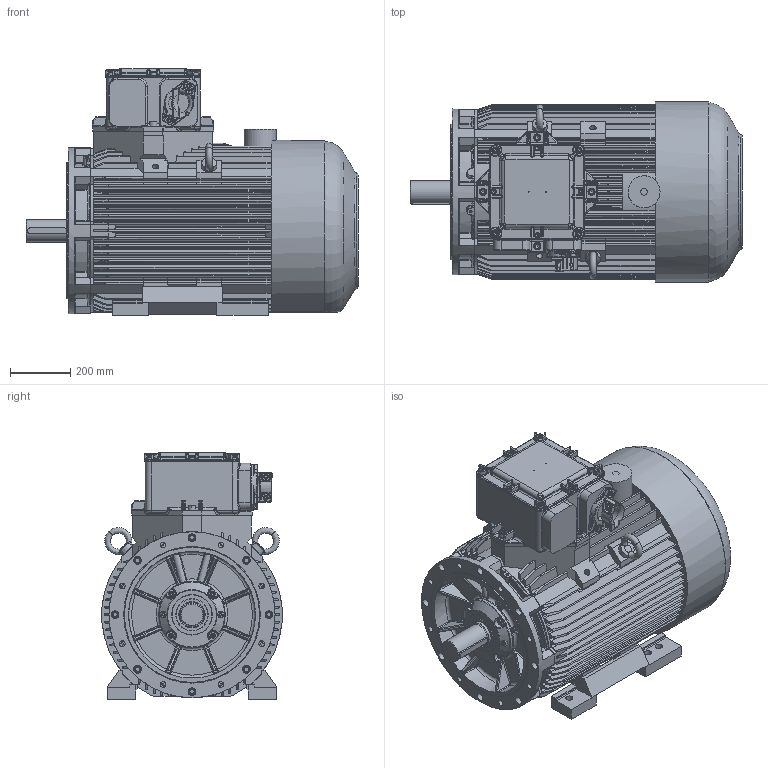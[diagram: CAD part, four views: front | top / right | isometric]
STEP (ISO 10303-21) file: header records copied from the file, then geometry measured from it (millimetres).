
FILE_DESCRIPTION(/* description */ ('Unknown'),/* implementation_level */ '2;1');
FILE_NAME(/* name */ 'EcSTLe280SM4-8-IE2-3',/* time_stamp */ '2021-12-27T13:38:34+01:00',/* author */ ('Unknown'),/* organization */ ('Unknown'),/* preprocessor_version */ 'ST-DEVELOPER v16.7',/* originating_system */ 'DEX',/* authorisation */ $);
FILE_SCHEMA (('AUTOMOTIVE_DESIGN {1 0 10303 214 3 1 1}'));
Products named in the file (1): EcSTLe280SM4-8-IE2-3
Bounding box: 1099.99 x 597.51 x 817 mm (x, y, z)
Volume: 247287299.3 mm3; surface area: 5459566.6 mm2
Topology: 1 solids, 37 shells, 3441 faces, 8815 edges, 5401 vertices
Faces by surface type: cylinder 1157, plane 1136, bspline 363, torus 352, cone 313, sphere 120
Full cylindrical faces by diameter (mm): 3.2 x2, 4.5 x1, 6 x1, 8.16 x4, 8.376 x6, 8.917 x2, 10 x12, 11 x6, 12 x2, 13.546 x8, 13.835 x2, 16 x28, 17.5 x12, 18 x8, 18.376 x1, 19 x8, 19.6 x2, 20.752 x10, 22.376 x1, 24 x18, 26 x8, 67 x1, 75 x1, 81.5 x1, 84 x1, 85 x1, 87 x1, 106 x1, 218 x1, 220 x1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
Entity records: 137284 total; most frequent: CARTESIAN_POINT 34095, ORIENTED_EDGE 16510, DIRECTION 16383, EDGE_CURVE 8255, AXIS2_PLACEMENT_3D 6398, VERTEX_POINT 5266, FACE_BOUND 3911, EDGE_LOOP 3884
